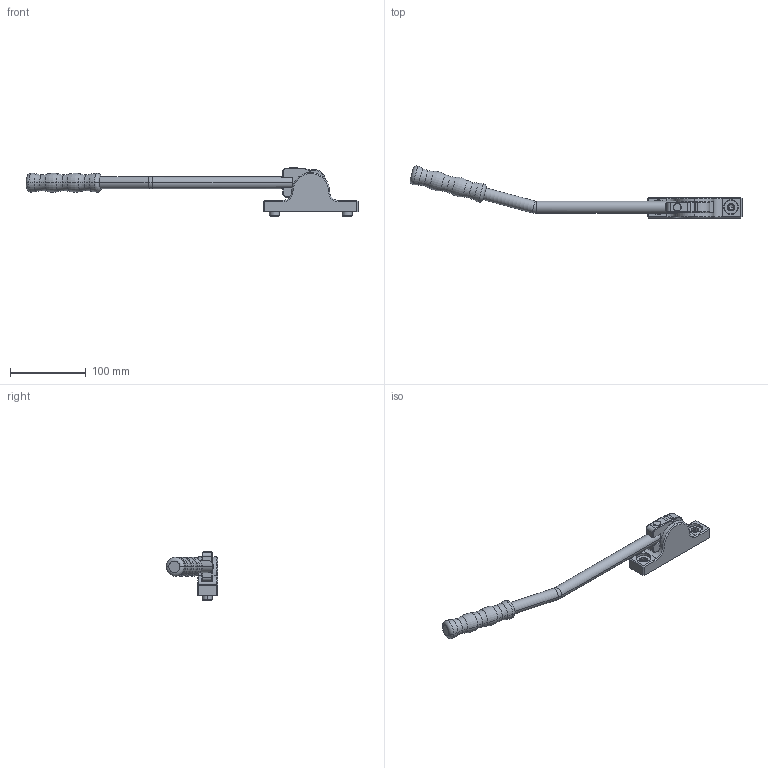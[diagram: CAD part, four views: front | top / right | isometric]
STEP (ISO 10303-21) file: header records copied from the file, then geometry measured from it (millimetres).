
FILE_DESCRIPTION (( 'STEP AP203' ), '1' );
FILE_NAME ('45296.STEP', '2016-11-16T13:07:24', ( '' ), ( '' ), 'SwSTEP 2.0', 'SolidWorks 2015', '' );
FILE_SCHEMA (( 'CONFIG_CONTROL_DESIGN' ));
Length unit declared in the file: millimetre
Products named in the file (3): 45296; 44400
Assembly tree (2 placements, depth 2):
  45296
    45296
    44400
Bounding box: 438.81 x 68.68 x 64.55 mm (x, y, z)
Volume: 191137.4 mm3; surface area: 52653.3 mm2
Topology: 8 solids, 8 shells, 279 faces, 627 edges, 375 vertices
Faces by surface type: plane 98, cylinder 75, cone 51, torus 46, bspline 9
Entity records: 9976 total; most frequent: CARTESIAN_POINT 3445, DIRECTION 1381, ORIENTED_EDGE 1242, EDGE_CURVE 621, AXIS2_PLACEMENT_3D 553, VERTEX_POINT 375, EDGE_LOOP 300, ADVANCED_FACE 279
